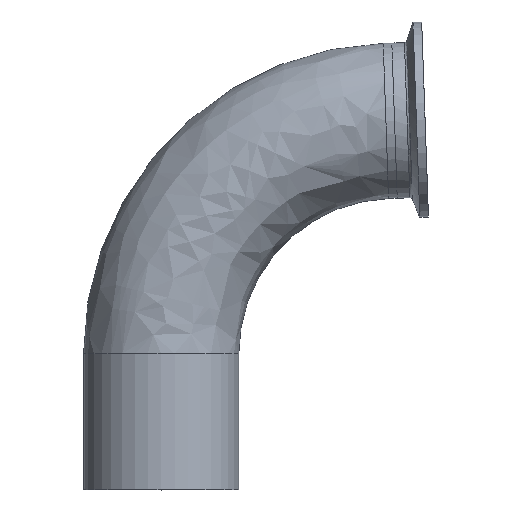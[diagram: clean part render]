
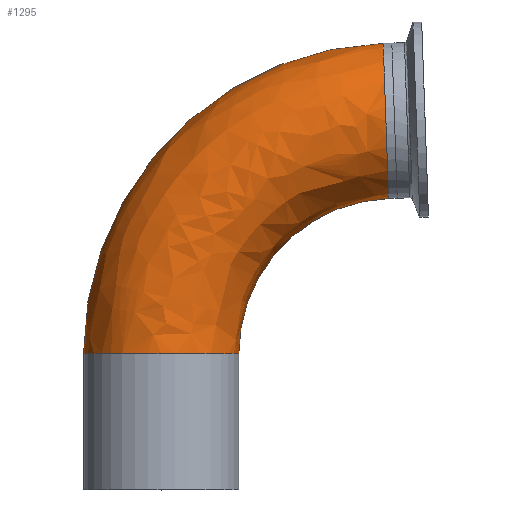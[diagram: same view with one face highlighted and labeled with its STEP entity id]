
A CAD part, top view. The second image highlights one B-rep face of the part: STEP entity #1295.
In plain terms, the highlighted free-form (B-spline) face has degree [3, 3] with [4, 4] control points.
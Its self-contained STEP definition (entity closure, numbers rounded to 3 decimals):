
#54 = VERTEX_POINT ( 'NONE', #1664 ) ;
#61 = DIRECTION ( 'NONE',  ( -1., 0., 0. ) ) ;
#67 = DIRECTION ( 'NONE',  ( 0., 0., -1. ) ) ;
#73 = CARTESIAN_POINT ( 'NONE',  ( 76.2, 44.559, 0. ) ) ;
#85 = CARTESIAN_POINT ( 'NONE',  ( 74.427, 95.328, 0. ) ) ;
#112 =( BOUNDED_SURFACE ( )  B_SPLINE_SURFACE ( 3, 3, ( 
 ( #1535, #1547, #1493, #1400 ),
 ( #1395, #1392, #1383, #1377 ),
 ( #1373, #1351, #1263, #1256 ),
 ( #1248, #1241, #1235, #1228 ) ),
 .UNSPECIFIED., .F., .F., .T. ) 
 B_SPLINE_SURFACE_WITH_KNOTS ( ( 4, 4 ),
 ( 4, 4 ),
 ( 0., 1. ),
 ( 0., 1. ),
 .UNSPECIFIED. ) 
 GEOMETRIC_REPRESENTATION_ITEM ( )  RATIONAL_B_SPLINE_SURFACE ( (
 ( 1., 0.813, 0.813, 1.),
 ( 0.333, 0.271, 0.271, 0.333),
 ( 0.333, 0.271, 0.271, 0.333),
 ( 1., 0.813, 0.813, 1.) ) ) 
 REPRESENTATION_ITEM ( '' )  SURFACE ( )  );
#185 = DIRECTION ( 'NONE',  ( -1., 0., 0. ) ) ;
#208 = DIRECTION ( 'NONE',  ( 0., 1., 0. ) ) ;
#212 = CARTESIAN_POINT ( 'NONE',  ( 0., 44.559, 0. ) ) ;
#321 = CIRCLE ( 'NONE', #692, 25.4 ) ;
#417 = EDGE_CURVE ( 'NONE', #784, #933, #1545, .T. ) ;
#441 = VERTEX_POINT ( 'NONE', #85 ) ;
#623 = AXIS2_PLACEMENT_3D ( 'NONE', #1739, #1733, #1724 ) ;
#633 = FACE_OUTER_BOUND ( 'NONE', #1605, .T. ) ;
#692 = AXIS2_PLACEMENT_3D ( 'NONE', #1428, #1127, #1150 ) ;
#741 = ORIENTED_EDGE ( 'NONE', *, *, #1225, .T. ) ;
#784 = VERTEX_POINT ( 'NONE', #1358 ) ;
#871 = EDGE_CURVE ( 'NONE', #441, #54, #321, .T. ) ;
#933 = VERTEX_POINT ( 'NONE', #1013 ) ;
#998 = ORIENTED_EDGE ( 'NONE', *, *, #871, .T. ) ;
#1013 = CARTESIAN_POINT ( 'NONE',  ( 25.4, 44.559, 0. ) ) ;
#1073 = ORIENTED_EDGE ( 'NONE', *, *, #1528, .F. ) ;
#1127 = DIRECTION ( 'NONE',  ( -0.999, -0.035, 0. ) ) ;
#1150 = DIRECTION ( 'NONE',  ( -0.035, 0.999, 0. ) ) ;
#1160 = CIRCLE ( 'NONE', #1194, 101.6 ) ;
#1194 = AXIS2_PLACEMENT_3D ( 'NONE', #73, #67, #61 ) ;
#1225 = EDGE_CURVE ( 'NONE', #933, #441, #1485, .T. ) ;
#1228 = CARTESIAN_POINT ( 'NONE',  ( 74.427, 95.328, 0. ) ) ;
#1235 = CARTESIAN_POINT ( 'NONE',  ( 45.504, 94.318, 0. ) ) ;
#1241 = CARTESIAN_POINT ( 'NONE',  ( 25.4, 73.5, 0. ) ) ;
#1248 = CARTESIAN_POINT ( 'NONE',  ( 25.4, 44.559, 0. ) ) ;
#1256 = CARTESIAN_POINT ( 'NONE',  ( 74.427, 95.328, 50.8 ) ) ;
#1263 = CARTESIAN_POINT ( 'NONE',  ( 45.504, 94.318, 50.8 ) ) ;
#1295 = ADVANCED_FACE ( 'NONE', ( #633 ), #112, .T. ) ;
#1351 = CARTESIAN_POINT ( 'NONE',  ( 25.4, 73.5, 50.8 ) ) ;
#1358 = CARTESIAN_POINT ( 'NONE',  ( -25.4, 44.559, 0. ) ) ;
#1373 = CARTESIAN_POINT ( 'NONE',  ( 25.4, 44.559, 50.8 ) ) ;
#1377 = CARTESIAN_POINT ( 'NONE',  ( 72.654, 146.097, 50.8 ) ) ;
#1379 = ORIENTED_EDGE ( 'NONE', *, *, #417, .T. ) ;
#1383 = CARTESIAN_POINT ( 'NONE',  ( 14.808, 144.077, 50.8 ) ) ;
#1392 = CARTESIAN_POINT ( 'NONE',  ( -25.4, 102.44, 50.8 ) ) ;
#1395 = CARTESIAN_POINT ( 'NONE',  ( -25.4, 44.559, 50.8 ) ) ;
#1400 = CARTESIAN_POINT ( 'NONE',  ( 72.654, 146.097, 0. ) ) ;
#1428 = CARTESIAN_POINT ( 'NONE',  ( 73.541, 120.712, 0. ) ) ;
#1485 = CIRCLE ( 'NONE', #623, 50.8 ) ;
#1493 = CARTESIAN_POINT ( 'NONE',  ( 14.808, 144.077, 0. ) ) ;
#1528 = EDGE_CURVE ( 'NONE', #784, #54, #1160, .T. ) ;
#1535 = CARTESIAN_POINT ( 'NONE',  ( -25.4, 44.559, 0. ) ) ;
#1545 = CIRCLE ( 'NONE', #1779, 25.4 ) ;
#1547 = CARTESIAN_POINT ( 'NONE',  ( -25.4, 102.44, 0. ) ) ;
#1605 = EDGE_LOOP ( 'NONE', ( #1379, #741, #998, #1073 ) ) ;
#1664 = CARTESIAN_POINT ( 'NONE',  ( 72.654, 146.097, 0. ) ) ;
#1724 = DIRECTION ( 'NONE',  ( -1., 0., 0. ) ) ;
#1733 = DIRECTION ( 'NONE',  ( 0., 0., -1. ) ) ;
#1739 = CARTESIAN_POINT ( 'NONE',  ( 76.2, 44.559, 0. ) ) ;
#1779 = AXIS2_PLACEMENT_3D ( 'NONE', #212, #208, #185 ) ;
